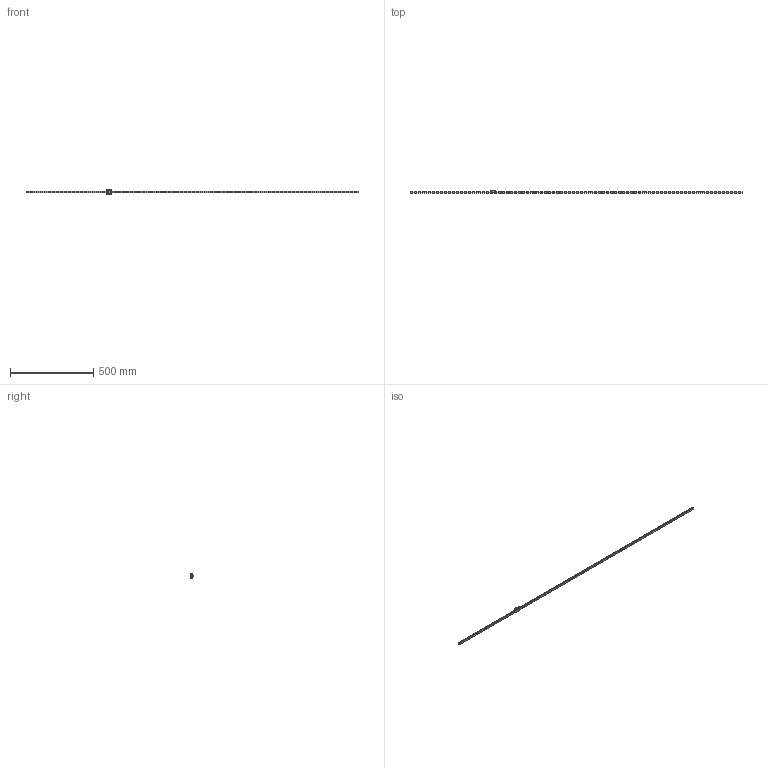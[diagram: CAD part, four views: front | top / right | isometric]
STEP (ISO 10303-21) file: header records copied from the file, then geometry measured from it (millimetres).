
FILE_DESCRIPTION((''),'2;1');
FILE_NAME('BMHS12-U01Z0-2000-D0_1_ASM_1_ASM','2020-11-25T10:53:39',('TWVS2025'),(''),'CREO PARAMETRIC BY PTC INC, 2018420','CREO PARAMETRIC BY PTC INC, 2018420','');
FILE_SCHEMA(('CONFIG_CONTROL_DESIGN'));
Length unit declared in the file: millimetre
Products named in the file (3): IR-BMH12-2000_1_RNM; BC-BMHC12-U0S-Z0_1; BMHS12-U01Z0-2000-D0_1_ASM_1_ASM
Assembly tree (2 placements, depth 2):
  BMHS12-U01Z0-2000-D0_1_ASM_1_ASM
    IR-BMH12-2000_1_RNM
    BC-BMHC12-U0S-Z0_1
Bounding box: 2000 x 13 x 27 mm (x, y, z)
Volume: 198037 mm3; surface area: 96730.2 mm2
Topology: 2 solids, 6 shells, 1006 faces, 2680 edges, 1706 vertices
Faces by surface type: cylinder 464, plane 302, cone 176, sphere 48, torus 16
Entity records: 32440 total; most frequent: CARTESIAN_POINT 6341, DIRECTION 5750, ORIENTED_EDGE 5264, EDGE_CURVE 2632, AXIS2_PLACEMENT_3D 2275, VERTEX_POINT 1706, EDGE_LOOP 1270, CIRCLE 1264
